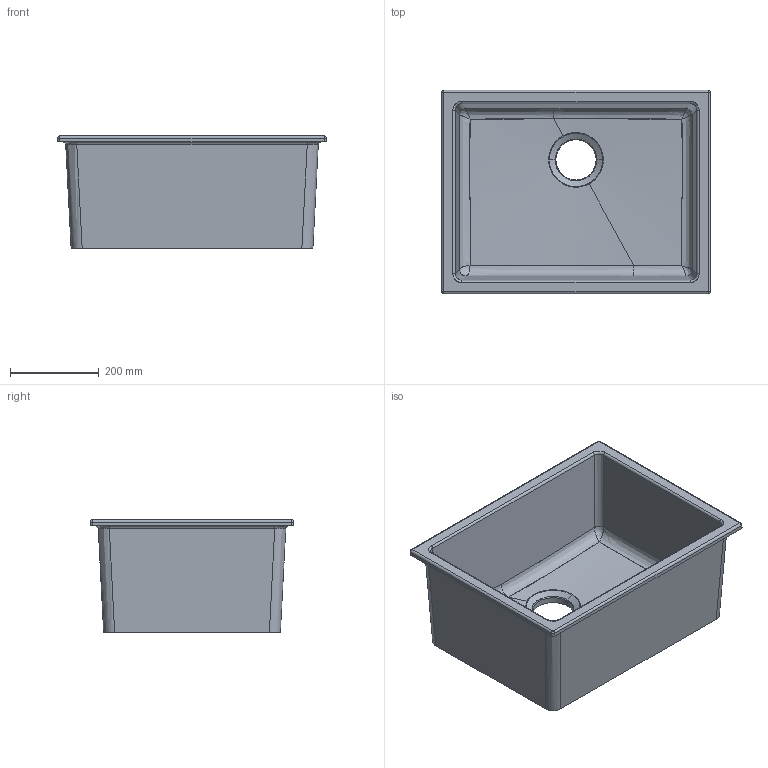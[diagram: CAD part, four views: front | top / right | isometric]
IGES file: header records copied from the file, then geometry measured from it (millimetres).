
Start section: START RECORD GO HERE.
Global section: file name: 3D ART 5123.igs; native system: DASSAULT SYSTEMES CATIA V5 R19 - www.3ds.com; preprocessor: CATIA Version 5 Release 19 SP 5 ; author: Luca; organization: DESKTOP-V7SON24; date: 20200610.102939; units: millimetre
Bounding box: 607 x 460 x 254 mm (x, y, z)
Surface area: 1440106 mm2 (no closed solid volume)
Topology: 0 solids, 0 shells, 362 faces, 1698 edges, 1684 vertices
Faces by surface type: bspline 178, revolution 143, plane 41
